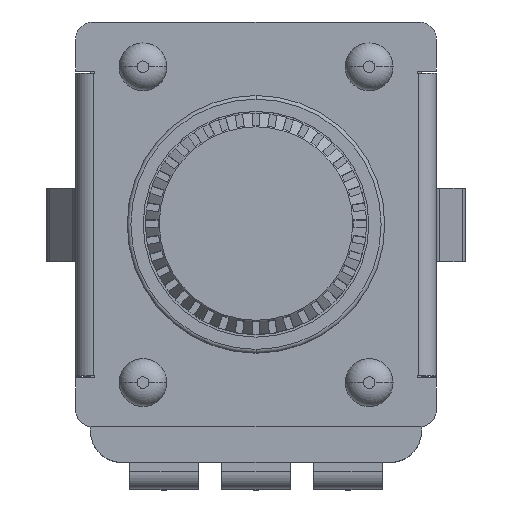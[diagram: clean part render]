
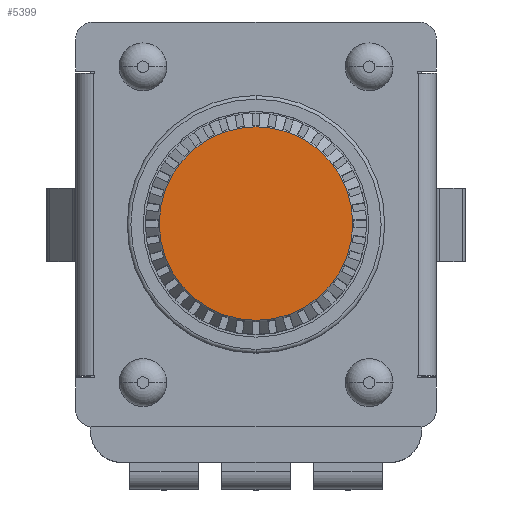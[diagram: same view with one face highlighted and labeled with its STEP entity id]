
A CAD part, top view. The second image highlights one B-rep face of the part: STEP entity #5399.
In plain terms, the highlighted planar face has unit normal (0, 0, 1).
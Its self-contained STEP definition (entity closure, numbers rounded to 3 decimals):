
#203 = CARTESIAN_POINT ( 'NONE',  ( 0., -2.63, 0. ) ) ;
#268 = PLANE ( 'NONE',  #7454 ) ;
#440 = CARTESIAN_POINT ( 'NONE',  ( 0., 2.63, 0. ) ) ;
#453 = DIRECTION ( 'NONE',  ( 0., 0., -1. ) ) ;
#751 = AXIS2_PLACEMENT_3D ( 'NONE', #3789, #10891, #6674 ) ;
#1395 = CIRCLE ( 'NONE', #751, 2.63 ) ;
#3789 = CARTESIAN_POINT ( 'NONE',  ( 0., 0., 0. ) ) ;
#3947 = VERTEX_POINT ( 'NONE', #10998 ) ;
#4129 = DIRECTION ( 'NONE',  ( 0., -1., 0. ) ) ;
#4820 = ORIENTED_EDGE ( 'NONE', *, *, #9078, .F. ) ;
#5340 = DIRECTION ( 'NONE',  ( 0., 0., 1. ) ) ;
#5399 = ADVANCED_FACE ( 'NONE', ( #11441 ), #268, .T. ) ;
#5849 = EDGE_LOOP ( 'NONE', ( #12921, #4820 ) ) ;
#6674 = DIRECTION ( 'NONE',  ( 0., 1., 0. ) ) ;
#7454 = AXIS2_PLACEMENT_3D ( 'NONE', #203, #5340, #4129 ) ;
#7892 = CARTESIAN_POINT ( 'NONE',  ( 0., 0., 0. ) ) ;
#8072 = CIRCLE ( 'NONE', #9168, 2.63 ) ;
#8845 = DIRECTION ( 'NONE',  ( 0., 1., 0. ) ) ;
#9078 = EDGE_CURVE ( 'NONE', #3947, #12280, #1395, .T. ) ;
#9168 = AXIS2_PLACEMENT_3D ( 'NONE', #7892, #453, #8845 ) ;
#9416 = EDGE_CURVE ( 'NONE', #12280, #3947, #8072, .T. ) ;
#10891 = DIRECTION ( 'NONE',  ( 0., 0., -1. ) ) ;
#10998 = CARTESIAN_POINT ( 'NONE',  ( 0., -2.63, 0. ) ) ;
#11441 = FACE_OUTER_BOUND ( 'NONE', #5849, .T. ) ;
#12280 = VERTEX_POINT ( 'NONE', #440 ) ;
#12921 = ORIENTED_EDGE ( 'NONE', *, *, #9416, .F. ) ;
